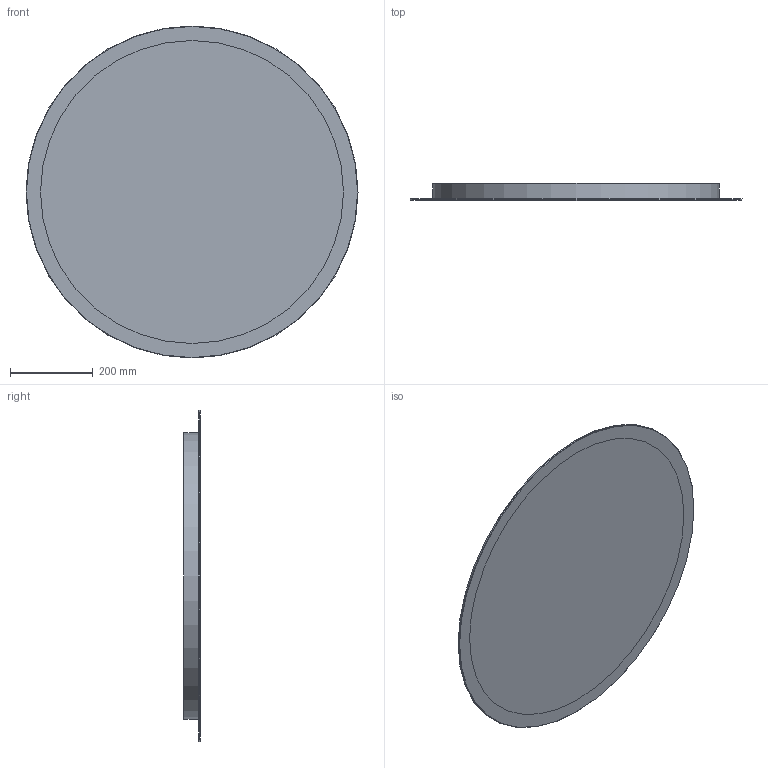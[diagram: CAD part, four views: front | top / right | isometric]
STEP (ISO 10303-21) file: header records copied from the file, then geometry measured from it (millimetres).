
FILE_DESCRIPTION(/* description */ ('Unknown'),/* implementation_level */ '2;1');
FILE_NAME(/* name */ 'Atum',/* time_stamp */ '2026-01-08T14:13:06+01:00',/* author */ ('Mariusz Kirko'),/* organization */ ('Kraft'),/* preprocessor_version */ 'ST-DEVELOPER v19.4',/* originating_system */ 'Solid Edge',/* authorisation */ 'Unknown');
FILE_SCHEMA (('AUTOMOTIVE_DESIGN {1 0 10303 214 3 1 1}'));
Length unit declared in the file: millimetre
Products named in the file (5): Z³o¿enie plus œcianka; Piaskowanie; Lustro; Ramka HIPS; 350x30
Assembly tree (4 placements, depth 2):
  Z³o¿enie plus œcianka
    Piaskowanie
    Lustro
    Ramka HIPS
    350x30
Bounding box: 800 x 40 x 800 mm (x, y, z)
Volume: 2197746.5 mm3; surface area: 1264258.3 mm2
Topology: 4 solids, 4 shells, 86 faces, 234 edges, 156 vertices
Faces by surface type: plane 48, cylinder 37, cone 1
Full cylindrical faces by diameter (mm): 686 x1, 690 x1, 730 x2, 800 x1
Entity records: 2893 total; most frequent: DIRECTION 484, CARTESIAN_POINT 473, ORIENTED_EDGE 454, EDGE_CURVE 227, AXIS2_PLACEMENT_3D 166, VERTEX_POINT 155, LINE 152, VECTOR 152
